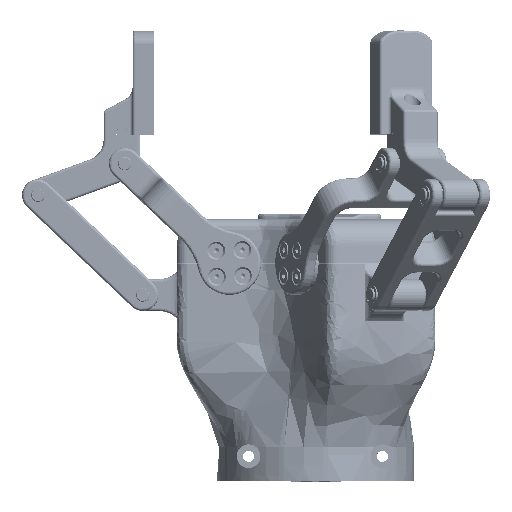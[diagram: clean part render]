
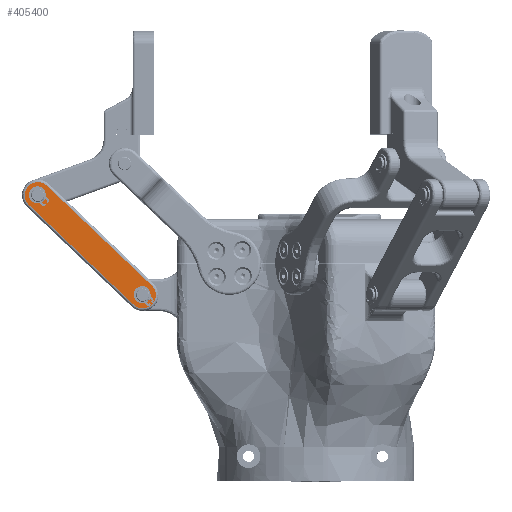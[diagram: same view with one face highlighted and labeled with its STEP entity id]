
A CAD part, top view. The second image highlights one B-rep face of the part: STEP entity #405400.
In plain terms, the highlighted planar face has unit normal (0, 0, 1).
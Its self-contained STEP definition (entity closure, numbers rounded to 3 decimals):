
#739 = ORIENTED_EDGE ( 'NONE', *, *, #448429, .F. ) ;
#960 = CARTESIAN_POINT ( 'NONE',  ( -102.053, 112.29, 12.6 ) ) ;
#1323 = CARTESIAN_POINT ( 'NONE',  ( -68.66, 70.75, 12.6 ) ) ;
#24142 = ORIENTED_EDGE ( 'NONE', *, *, #193672, .F. ) ;
#25557 = VERTEX_POINT ( 'NONE', #294628 ) ;
#28971 = CARTESIAN_POINT ( 'NONE',  ( -105.5, 108.668, 12.6 ) ) ;
#44507 = CARTESIAN_POINT ( 'NONE',  ( -65.66, 70.75, 12.6 ) ) ;
#67101 = DIRECTION ( 'NONE',  ( 1., 0., 0. ) ) ;
#69778 = VERTEX_POINT ( 'NONE', #212062 ) ;
#70454 = AXIS2_PLACEMENT_3D ( 'NONE', #96080, #274965, #342909 ) ;
#73147 = VERTEX_POINT ( 'NONE', #1323 ) ;
#74838 = AXIS2_PLACEMENT_3D ( 'NONE', #28971, #419139, #345233 ) ;
#81876 = CARTESIAN_POINT ( 'NONE',  ( -102.053, 112.29, 12.6 ) ) ;
#85860 = DIRECTION ( 'NONE',  ( -0.724, 0.689, 0. ) ) ;
#87981 = DIRECTION ( 'NONE',  ( 0., 0., -1. ) ) ;
#92508 = AXIS2_PLACEMENT_3D ( 'NONE', #44507, #183321, #397687 ) ;
#96080 = CARTESIAN_POINT ( 'NONE',  ( -105.5, 108.668, 12.6 ) ) ;
#97010 = CARTESIAN_POINT ( 'NONE',  ( -69.107, 67.128, 12.6 ) ) ;
#99011 = VERTEX_POINT ( 'NONE', #183596 ) ;
#123415 = DIRECTION ( 'NONE',  ( 0., 1., 0. ) ) ;
#127894 = VERTEX_POINT ( 'NONE', #280250 ) ;
#134034 = CARTESIAN_POINT ( 'NONE',  ( -62.213, 74.372, 12.6 ) ) ;
#139755 = ORIENTED_EDGE ( 'NONE', *, *, #161750, .F. ) ;
#144075 = CARTESIAN_POINT ( 'NONE',  ( -65.66, 70.75, 12.6 ) ) ;
#155395 =( BOUNDED_CURVE ( )  B_SPLINE_CURVE ( 3, ( #429706, #318807, #281756, #960 ),
 .UNSPECIFIED., .F., .F. ) 
 B_SPLINE_CURVE_WITH_KNOTS ( ( 4, 4 ),
 ( 0., 1. ),
 .UNSPECIFIED. ) 
 CURVE ( )  GEOMETRIC_REPRESENTATION_ITEM ( )  RATIONAL_B_SPLINE_CURVE ( ( 1., 0.333, 0.333, 1. ) ) 
 REPRESENTATION_ITEM ( '' )  );
#156356 = ORIENTED_EDGE ( 'NONE', *, *, #382279, .F. ) ;
#159482 = CARTESIAN_POINT ( 'NONE',  ( -69.107, 67.128, 12.6 ) ) ;
#161750 = EDGE_CURVE ( 'NONE', #25557, #73147, #273929, .T. ) ;
#165061 = EDGE_CURVE ( 'NONE', #227843, #69778, #439019, .T. ) ;
#174955 = VERTEX_POINT ( 'NONE', #159482 ) ;
#175760 = EDGE_LOOP ( 'NONE', ( #139755, #320703 ) ) ;
#183321 = DIRECTION ( 'NONE',  ( 0., 0., 1. ) ) ;
#183596 = CARTESIAN_POINT ( 'NONE',  ( -62.213, 74.372, 12.6 ) ) ;
#184437 = FACE_BOUND ( 'NONE', #228629, .T. ) ;
#190422 = ORIENTED_EDGE ( 'NONE', *, *, #367598, .F. ) ;
#193672 = EDGE_CURVE ( 'NONE', #99011, #174955, #352595, .T. ) ;
#212062 = CARTESIAN_POINT ( 'NONE',  ( -108.5, 108.668, 12.6 ) ) ;
#221540 = CARTESIAN_POINT ( 'NONE',  ( -102.053, 112.29, 12.6 ) ) ;
#227041 = LINE ( 'NONE', #81876, #243297 ) ;
#227843 = VERTEX_POINT ( 'NONE', #416273 ) ;
#228629 = EDGE_LOOP ( 'NONE', ( #282646, #156356 ) ) ;
#243297 = VECTOR ( 'NONE', #433622, 1000. ) ;
#244387 = DIRECTION ( 'NONE',  ( 0., 0., 1. ) ) ;
#245069 = FACE_OUTER_BOUND ( 'NONE', #396086, .T. ) ;
#263861 = ORIENTED_EDGE ( 'NONE', *, *, #319929, .F. ) ;
#264007 = VERTEX_POINT ( 'NONE', #221540 ) ;
#265090 = AXIS2_PLACEMENT_3D ( 'NONE', #144075, #244387, #67101 ) ;
#273929 = CIRCLE ( 'NONE', #265090, 3. ) ;
#274965 = DIRECTION ( 'NONE',  ( 0., 0., 1. ) ) ;
#280250 = CARTESIAN_POINT ( 'NONE',  ( -108.947, 105.046, 12.6 ) ) ;
#280980 = AXIS2_PLACEMENT_3D ( 'NONE', #436643, #87981, #123415 ) ;
#281756 = CARTESIAN_POINT ( 'NONE',  ( -109.296, 119.184, 12.6 ) ) ;
#282646 = ORIENTED_EDGE ( 'NONE', *, *, #165061, .F. ) ;
#294628 = CARTESIAN_POINT ( 'NONE',  ( -62.66, 70.75, 12.6 ) ) ;
#297301 = CARTESIAN_POINT ( 'NONE',  ( -69.107, 67.128, 12.6 ) ) ;
#300586 = CIRCLE ( 'NONE', #92508, 3. ) ;
#316425 = CIRCLE ( 'NONE', #74838, 3. ) ;
#318807 = CARTESIAN_POINT ( 'NONE',  ( -116.191, 111.941, 12.6 ) ) ;
#319929 = EDGE_CURVE ( 'NONE', #174955, #127894, #412330, .T. ) ;
#320703 = ORIENTED_EDGE ( 'NONE', *, *, #380847, .F. ) ;
#342909 = DIRECTION ( 'NONE',  ( 1., 0., 0. ) ) ;
#345233 = DIRECTION ( 'NONE',  ( 1., 0., 0. ) ) ;
#346864 = CARTESIAN_POINT ( 'NONE',  ( -61.864, 60.234, 12.6 ) ) ;
#352595 =( BOUNDED_CURVE ( )  B_SPLINE_CURVE ( 3, ( #134034, #380758, #346864, #97010 ),
 .UNSPECIFIED., .F., .F. ) 
 B_SPLINE_CURVE_WITH_KNOTS ( ( 4, 4 ),
 ( 0., 1. ),
 .UNSPECIFIED. ) 
 CURVE ( )  GEOMETRIC_REPRESENTATION_ITEM ( )  RATIONAL_B_SPLINE_CURVE ( ( 1., 0.333, 0.333, 1. ) ) 
 REPRESENTATION_ITEM ( '' )  );
#365648 = PLANE ( 'NONE',  #280980 ) ;
#367598 = EDGE_CURVE ( 'NONE', #264007, #99011, #227041, .T. ) ;
#380758 = CARTESIAN_POINT ( 'NONE',  ( -54.97, 67.478, 12.6 ) ) ;
#380847 = EDGE_CURVE ( 'NONE', #73147, #25557, #300586, .T. ) ;
#382279 = EDGE_CURVE ( 'NONE', #69778, #227843, #316425, .T. ) ;
#388452 = FACE_BOUND ( 'NONE', #175760, .T. ) ;
#395863 = VECTOR ( 'NONE', #85860, 1000. ) ;
#396086 = EDGE_LOOP ( 'NONE', ( #263861, #24142, #190422, #739 ) ) ;
#397687 = DIRECTION ( 'NONE',  ( 1., 0., 0. ) ) ;
#405400 = ADVANCED_FACE ( 'NONE', ( #184437, #388452, #245069 ), #365648, .F. ) ;
#412330 = LINE ( 'NONE', #297301, #395863 ) ;
#416273 = CARTESIAN_POINT ( 'NONE',  ( -102.5, 108.668, 12.6 ) ) ;
#419139 = DIRECTION ( 'NONE',  ( 0., 0., 1. ) ) ;
#429706 = CARTESIAN_POINT ( 'NONE',  ( -108.947, 105.046, 12.6 ) ) ;
#433622 = DIRECTION ( 'NONE',  ( 0.724, -0.689, 0. ) ) ;
#436643 = CARTESIAN_POINT ( 'NONE',  ( -105.5, 108.668, 12.6 ) ) ;
#439019 = CIRCLE ( 'NONE', #70454, 3. ) ;
#448429 = EDGE_CURVE ( 'NONE', #127894, #264007, #155395, .T. ) ;
